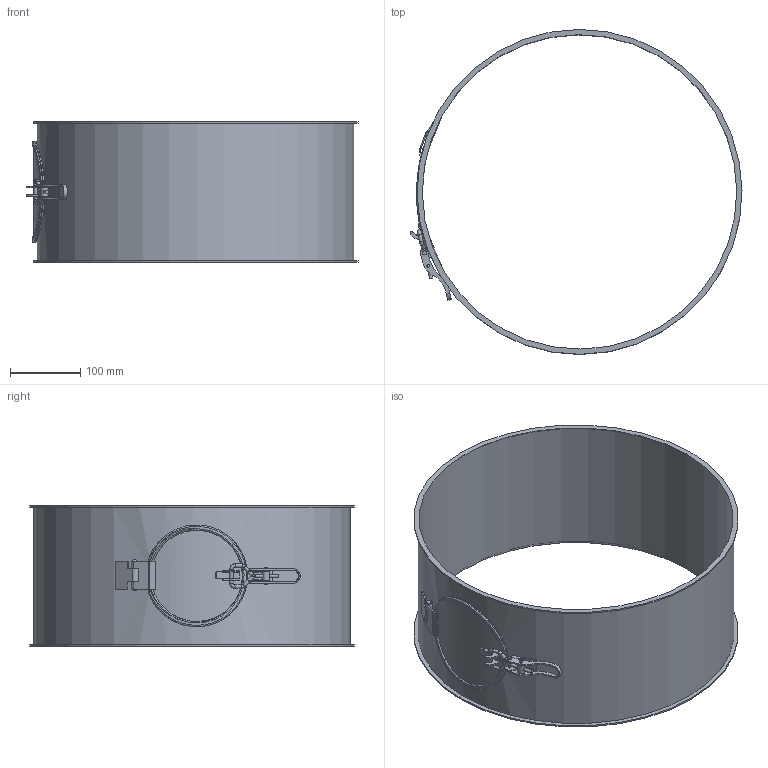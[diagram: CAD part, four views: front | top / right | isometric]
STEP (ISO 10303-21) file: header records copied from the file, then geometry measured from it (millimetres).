
FILE_DESCRIPTION((''),'2;1');
FILE_NAME('U:\Wolfgang\Marcel-3D\fertig\Kapitel 4\4511043.stp','2011-04-21T08:31:35',('TK1'),(''),'Autodesk Inventor 2010','Autodesk Inventor 2010','');
FILE_SCHEMA(('AUTOMOTIVE_DESIGN { 1 0 10303 214 1 1 1 1 }'));
Length unit declared in the file: millimetre
Products named in the file (15): 4511043 (Detailgenauigkeit1); 4511043-1; GelenkDeckel45b; GelenkDeckel1c; Deckel45; Deckel45b; GelenkDeckel35a; VerschlussDeckel45; dichtung45; Verschluss45; Verschluss1b; Verschluss1c; Verschluss1d; Verschluss1e
Assembly tree (15 placements, depth 3):
  4511043 (Detailgenauigkeit1)
    4511043-1
    GelenkDeckel45b
    GelenkDeckel1c
    Deckel45
      Deckel45b
      GelenkDeckel35a
      VerschlussDeckel45
      dichtung45
    Verschluss45
      Verschluss45
      Verschluss1b
      Verschluss1c
      Verschluss1d  x2
      Verschluss1e
Bounding box: 473.1 x 462.98 x 200 mm (x, y, z)
Volume: 492872.5 mm3; surface area: 640546.7 mm2
Topology: 13 solids, 13 shells, 177 faces, 416 edges, 269 vertices
Faces by surface type: cylinder 81, plane 80, torus 9, bspline 5, sphere 2
Full cylindrical faces by diameter (mm): 2 x4, 4 x4, 5 x6, 6 x6, 6.2 x2, 10 x1, 115 x1, 130 x1, 135 x1, 145 x1, 448 x1, 451 x1, 463 x2
Entity records: 6731 total; most frequent: CARTESIAN_POINT 2474, DIRECTION 862, ORIENTED_EDGE 710, EDGE_CURVE 355, AXIS2_PLACEMENT_3D 341, VERTEX_POINT 252, EDGE_LOOP 241, VECTOR 180
